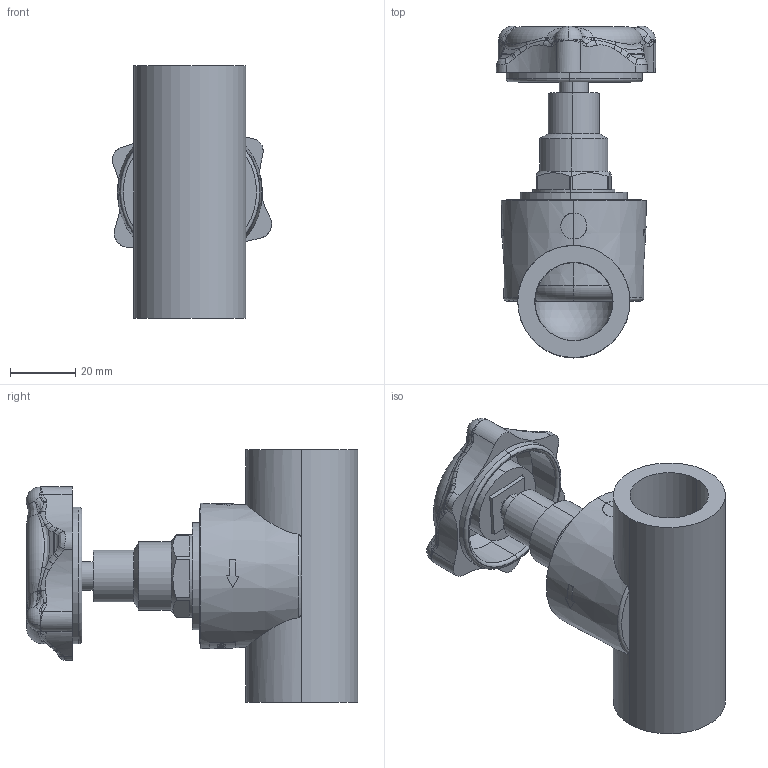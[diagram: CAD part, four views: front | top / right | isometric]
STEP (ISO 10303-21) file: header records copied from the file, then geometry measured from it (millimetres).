
FILE_DESCRIPTION (( 'STEP AP203' ), '1' );
FILE_NAME ('PKV01_ASM.STEP', '2022-08-23T09:58:28', ( '' ), ( '' ), 'SwSTEP 2.0', 'SolidWorks 2021', '' );
FILE_SCHEMA (( 'CONFIG_CONTROL_DESIGN' ));
Length unit declared in the file: millimetre
Products named in the file (6): VLPKT01; PKV01_ASM; IHPKT01; INPKT01; HPKT01; PLPKT01
Assembly tree (5 placements, depth 2):
  PKV01_ASM
    PLPKT01
    INPKT01
    VLPKT01
    IHPKT01
    HPKT01
Bounding box: 48.89 x 101.9 x 77.6 mm (x, y, z)
Volume: 94626.5 mm3; surface area: 44277.3 mm2
Topology: 5 solids, 5 shells, 778 faces, 2035 edges, 1289 vertices
Faces by surface type: bspline 299, plane 238, cylinder 186, cone 32, torus 20, sphere 3
Entity records: 40800 total; most frequent: CARTESIAN_POINT 23442, ORIENTED_EDGE 4004, DIRECTION 2661, EDGE_CURVE 2002, VERTEX_POINT 1289, AXIS2_PLACEMENT_3D 955, EDGE_LOOP 855, FACE_OUTER_BOUND 778
